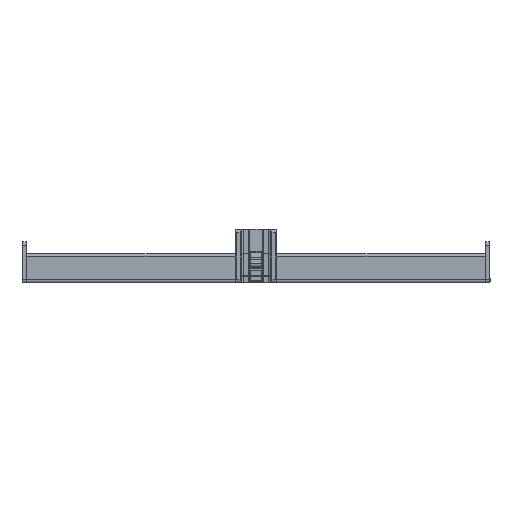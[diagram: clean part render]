
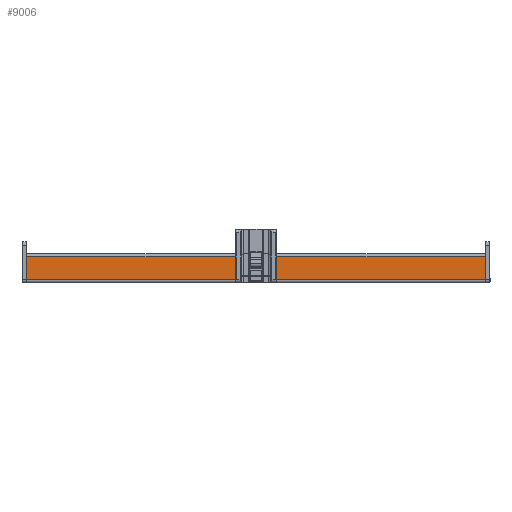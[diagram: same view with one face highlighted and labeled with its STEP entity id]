
A CAD part, front view. The second image highlights one B-rep face of the part: STEP entity #9006.
In plain terms, the highlighted planar face has unit normal (0, -1, 0).
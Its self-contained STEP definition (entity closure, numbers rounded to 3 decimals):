
#733 = DIRECTION ( 'NONE',  ( 0., 0., -1. ) ) ;
#912 = CARTESIAN_POINT ( 'NONE',  ( 220.25, 4677.95, 1596.8 ) ) ;
#992 = FACE_OUTER_BOUND ( 'NONE', #7568, .T. ) ;
#1474 = LINE ( 'NONE', #8816, #6014 ) ;
#1668 = DIRECTION ( 'NONE',  ( 0., 0., -1. ) ) ;
#1829 = EDGE_CURVE ( 'NONE', #3728, #3467, #13750, .T. ) ;
#2268 = CARTESIAN_POINT ( 'NONE',  ( 36.85, 4677.95, 1578.05 ) ) ;
#2565 = DIRECTION ( 'NONE',  ( -1., 0., 0. ) ) ;
#2649 = EDGE_CURVE ( 'NONE', #15717, #4348, #10010, .T. ) ;
#2692 = VECTOR ( 'NONE', #5339, 1000. ) ;
#3019 = EDGE_CURVE ( 'NONE', #15463, #13187, #14969, .T. ) ;
#3467 = VERTEX_POINT ( 'NONE', #13225 ) ;
#3523 = DIRECTION ( 'NONE',  ( 0., -1., 0. ) ) ;
#3728 = VERTEX_POINT ( 'NONE', #11419 ) ;
#3849 = ORIENTED_EDGE ( 'NONE', *, *, #14878, .T. ) ;
#3894 = ORIENTED_EDGE ( 'NONE', *, *, #5896, .F. ) ;
#4342 = CARTESIAN_POINT ( 'NONE',  ( -171.75, 4677.95, 1596.8 ) ) ;
#4348 = VERTEX_POINT ( 'NONE', #16034 ) ;
#4498 = LINE ( 'NONE', #912, #13515 ) ;
#4504 = CARTESIAN_POINT ( 'NONE',  ( -150., 4677.95, 1599.3 ) ) ;
#4964 = ORIENTED_EDGE ( 'NONE', *, *, #3019, .T. ) ;
#5093 = CARTESIAN_POINT ( 'NONE',  ( -150., 4677.95, 1586.8 ) ) ;
#5265 = VECTOR ( 'NONE', #2565, 1000. ) ;
#5339 = DIRECTION ( 'NONE',  ( -1., 0., 0. ) ) ;
#5896 = EDGE_CURVE ( 'NONE', #15463, #15717, #7871, .T. ) ;
#6014 = VECTOR ( 'NONE', #14037, 1000. ) ;
#6284 = ORIENTED_EDGE ( 'NONE', *, *, #2649, .F. ) ;
#6314 = EDGE_CURVE ( 'NONE', #14466, #9964, #4498, .T. ) ;
#6321 = VECTOR ( 'NONE', #8863, 1000. ) ;
#6718 = EDGE_CURVE ( 'NONE', #13187, #3728, #13454, .T. ) ;
#6990 = DIRECTION ( 'NONE',  ( 0., 0., -1. ) ) ;
#7568 = EDGE_LOOP ( 'NONE', ( #4964, #9676, #10521, #3849, #10333, #12623, #6284, #3894 ) ) ;
#7871 = LINE ( 'NONE', #12854, #8032 ) ;
#8032 = VECTOR ( 'NONE', #1668, 1000. ) ;
#8816 = CARTESIAN_POINT ( 'NONE',  ( 11.65, 4677.95, 1578.05 ) ) ;
#8863 = DIRECTION ( 'NONE',  ( -1., 0., 0. ) ) ;
#9006 = ADVANCED_FACE ( 'NONE', ( #992 ), #10942, .T. ) ;
#9065 = CARTESIAN_POINT ( 'NONE',  ( 220.25, 4677.95, 1596.8 ) ) ;
#9469 = CARTESIAN_POINT ( 'NONE',  ( 220.25, 4677.95, 1576.8 ) ) ;
#9676 = ORIENTED_EDGE ( 'NONE', *, *, #6718, .T. ) ;
#9964 = VERTEX_POINT ( 'NONE', #4342 ) ;
#10010 = LINE ( 'NONE', #11479, #6321 ) ;
#10333 = ORIENTED_EDGE ( 'NONE', *, *, #6314, .T. ) ;
#10521 = ORIENTED_EDGE ( 'NONE', *, *, #1829, .T. ) ;
#10795 = EDGE_CURVE ( 'NONE', #9964, #4348, #10827, .T. ) ;
#10821 = CARTESIAN_POINT ( 'NONE',  ( 11.65, 4677.95, 1596.8 ) ) ;
#10827 = LINE ( 'NONE', #14741, #13308 ) ;
#10942 = PLANE ( 'NONE',  #15305 ) ;
#11025 = DIRECTION ( 'NONE',  ( -1., 0., 0. ) ) ;
#11419 = CARTESIAN_POINT ( 'NONE',  ( 36.85, 4677.95, 1586.8 ) ) ;
#11479 = CARTESIAN_POINT ( 'NONE',  ( 220.25, 4677.95, 1576.8 ) ) ;
#12623 = ORIENTED_EDGE ( 'NONE', *, *, #10795, .T. ) ;
#12854 = CARTESIAN_POINT ( 'NONE',  ( 220.25, 4677.95, 1599.3 ) ) ;
#13187 = VERTEX_POINT ( 'NONE', #15443 ) ;
#13225 = CARTESIAN_POINT ( 'NONE',  ( 11.65, 4677.95, 1586.8 ) ) ;
#13308 = VECTOR ( 'NONE', #6990, 1000. ) ;
#13454 = LINE ( 'NONE', #2268, #14038 ) ;
#13515 = VECTOR ( 'NONE', #11025, 1000. ) ;
#13750 = LINE ( 'NONE', #5093, #5265 ) ;
#14037 = DIRECTION ( 'NONE',  ( 0., 0., 1. ) ) ;
#14038 = VECTOR ( 'NONE', #733, 1000. ) ;
#14063 = CARTESIAN_POINT ( 'NONE',  ( 220.25, 4677.95, 1596.8 ) ) ;
#14466 = VERTEX_POINT ( 'NONE', #10821 ) ;
#14741 = CARTESIAN_POINT ( 'NONE',  ( -171.75, 4677.95, 1599.3 ) ) ;
#14878 = EDGE_CURVE ( 'NONE', #3467, #14466, #1474, .T. ) ;
#14969 = LINE ( 'NONE', #14063, #2692 ) ;
#15305 = AXIS2_PLACEMENT_3D ( 'NONE', #4504, #3523, #15923 ) ;
#15443 = CARTESIAN_POINT ( 'NONE',  ( 36.85, 4677.95, 1596.8 ) ) ;
#15463 = VERTEX_POINT ( 'NONE', #9065 ) ;
#15717 = VERTEX_POINT ( 'NONE', #9469 ) ;
#15923 = DIRECTION ( 'NONE',  ( 1., 0., 0. ) ) ;
#16034 = CARTESIAN_POINT ( 'NONE',  ( -171.75, 4677.95, 1576.8 ) ) ;
